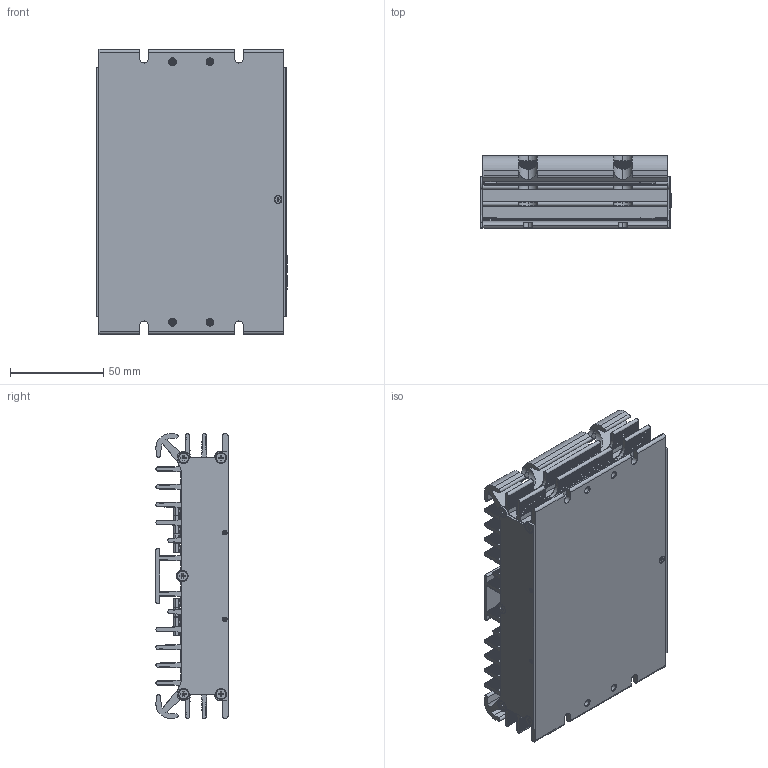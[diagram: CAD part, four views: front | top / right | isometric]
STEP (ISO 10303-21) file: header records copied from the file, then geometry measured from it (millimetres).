
FILE_DESCRIPTION (( 'STEP AP214' ), '1' );
FILE_NAME ('TEQ 300WIR.STEP', '2023-11-21T02:57:52', ( '' ), ( '' ), 'SwSTEP 2.0', 'SolidWorks 2016', '' );
FILE_SCHEMA (( 'AUTOMOTIVE_DESIGN' ));
Length unit declared in the file: millimetre
Products named in the file (1): TEQ 300WIR
Bounding box: 101.93 x 38.62 x 152.5 mm (x, y, z)
Volume: 387500.3 mm3; surface area: 151613 mm2
Topology: 21 solids, 21 shells, 3777 faces, 10401 edges, 6781 vertices
Faces by surface type: cylinder 1687, plane 1643, cone 234, bspline 180, torus 33
Entity records: 132474 total; most frequent: CARTESIAN_POINT 33800, ORIENTED_EDGE 20734, DIRECTION 20171, EDGE_CURVE 10367, AXIS2_PLACEMENT_3D 7126, VERTEX_POINT 6781, LINE 5919, VECTOR 5919
